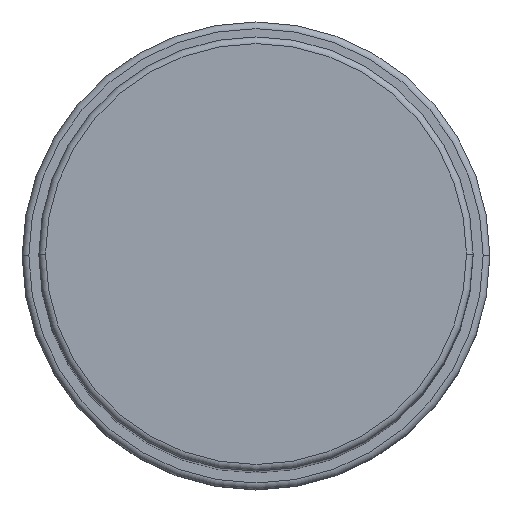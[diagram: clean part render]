
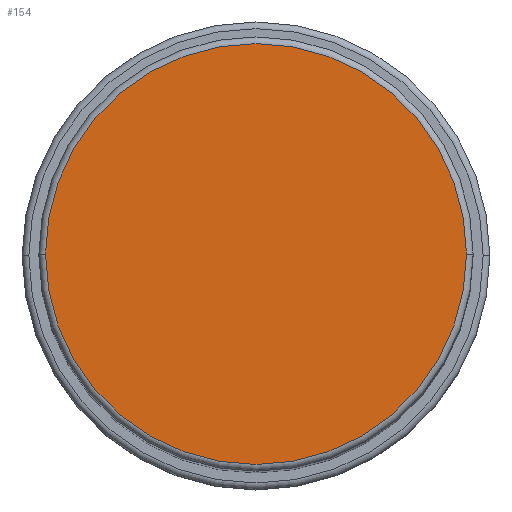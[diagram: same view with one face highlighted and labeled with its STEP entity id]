
A CAD part, top view. The second image highlights one B-rep face of the part: STEP entity #154.
In plain terms, the highlighted planar face has unit normal (0, 0, 1).
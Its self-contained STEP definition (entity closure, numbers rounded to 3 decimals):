
#147 = CARTESIAN_POINT ( 'NONE',  ( -31.5, 0., 168. ) ) ;
#154 = ADVANCED_FACE ( 'NONE', ( #1140 ), #1195, .T. ) ;
#192 = DIRECTION ( 'NONE',  ( 1., 0., 0. ) ) ;
#208 = DIRECTION ( 'NONE',  ( 0., 0., 1. ) ) ;
#327 = VERTEX_POINT ( 'NONE', #631 ) ;
#550 = ORIENTED_EDGE ( 'NONE', *, *, #1153, .T. ) ;
#593 = CARTESIAN_POINT ( 'NONE',  ( 0., 0., 168. ) ) ;
#631 = CARTESIAN_POINT ( 'NONE',  ( 31.5, 0., 168. ) ) ;
#811 = AXIS2_PLACEMENT_3D ( 'NONE', #1181, #1486, #1032 ) ;
#845 = AXIS2_PLACEMENT_3D ( 'NONE', #593, #1498, #1804 ) ;
#890 = CIRCLE ( 'NONE', #1717, 31.5 ) ;
#1032 = DIRECTION ( 'NONE',  ( 1., 0., 0. ) ) ;
#1140 = FACE_OUTER_BOUND ( 'NONE', #1603, .T. ) ;
#1153 = EDGE_CURVE ( 'NONE', #1844, #327, #1774, .T. ) ;
#1181 = CARTESIAN_POINT ( 'NONE',  ( 0., 0., 168. ) ) ;
#1195 = PLANE ( 'NONE',  #845 ) ;
#1435 = CARTESIAN_POINT ( 'NONE',  ( 0., 0., 168. ) ) ;
#1486 = DIRECTION ( 'NONE',  ( 0., 0., 1. ) ) ;
#1498 = DIRECTION ( 'NONE',  ( 0., 0., 1. ) ) ;
#1578 = EDGE_CURVE ( 'NONE', #327, #1844, #890, .T. ) ;
#1603 = EDGE_LOOP ( 'NONE', ( #1775, #550 ) ) ;
#1717 = AXIS2_PLACEMENT_3D ( 'NONE', #1435, #208, #192 ) ;
#1774 = CIRCLE ( 'NONE', #811, 31.5 ) ;
#1775 = ORIENTED_EDGE ( 'NONE', *, *, #1578, .T. ) ;
#1804 = DIRECTION ( 'NONE',  ( 1., 0., 0. ) ) ;
#1844 = VERTEX_POINT ( 'NONE', #147 ) ;
